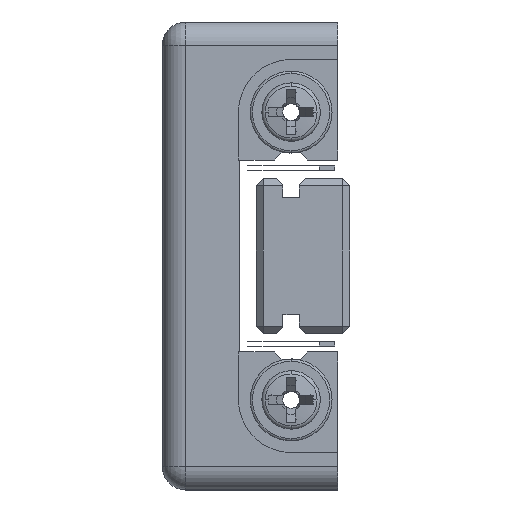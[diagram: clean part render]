
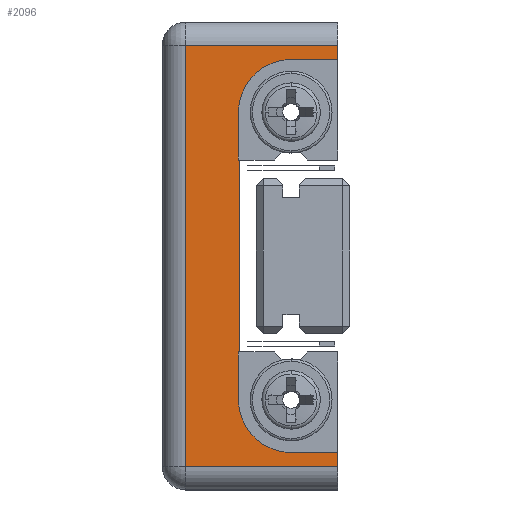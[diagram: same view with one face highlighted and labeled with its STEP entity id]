
A CAD part, left-side view. The second image highlights one B-rep face of the part: STEP entity #2096.
In plain terms, the highlighted planar face has unit normal (-1, 0, 0).
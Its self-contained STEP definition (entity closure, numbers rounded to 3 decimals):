
#117 = CARTESIAN_POINT ( 'NONE',  ( -32.201, -3.676, 4.1 ) ) ;
#157 = CARTESIAN_POINT ( 'NONE',  ( -32.201, -5.926, 6.15 ) ) ;
#205 = EDGE_CURVE ( 'NONE', #23670, #3009, #22721, .T. ) ;
#494 = ORIENTED_EDGE ( 'NONE', *, *, #9197, .T. ) ;
#735 = AXIS2_PLACEMENT_3D ( 'NONE', #157, #14585, #2259 ) ;
#1168 = VECTOR ( 'NONE', #12362, 1000. ) ;
#1175 = DIRECTION ( 'NONE',  ( 0., 0., -1. ) ) ;
#2096 = ADVANCED_FACE ( 'NONE', ( #15874 ), #13597, .F. ) ;
#2259 = DIRECTION ( 'NONE',  ( 0., 0., 1. ) ) ;
#2279 = EDGE_CURVE ( 'NONE', #14621, #11796, #11988, .T. ) ;
#2390 = CARTESIAN_POINT ( 'NONE',  ( -32.201, -0.426, 9. ) ) ;
#2749 = VECTOR ( 'NONE', #12959, 1000. ) ;
#2850 = VERTEX_POINT ( 'NONE', #18231 ) ;
#2879 = CARTESIAN_POINT ( 'NONE',  ( -32.201, -0.426, -9. ) ) ;
#3009 = VERTEX_POINT ( 'NONE', #9690 ) ;
#3037 = LINE ( 'NONE', #19407, #24294 ) ;
#3281 = CARTESIAN_POINT ( 'NONE',  ( -32.201, -5.926, -8.4 ) ) ;
#3602 = ORIENTED_EDGE ( 'NONE', *, *, #9287, .T. ) ;
#3725 = CARTESIAN_POINT ( 'NONE',  ( -32.201, -3.726, -4.1 ) ) ;
#3833 = CARTESIAN_POINT ( 'NONE',  ( -32.201, -7.926, -8.4 ) ) ;
#3890 = EDGE_CURVE ( 'NONE', #2850, #7847, #17156, .T. ) ;
#3973 = CARTESIAN_POINT ( 'NONE',  ( -32.201, -5.926, -6.15 ) ) ;
#4544 = LINE ( 'NONE', #3281, #25851 ) ;
#4678 = VECTOR ( 'NONE', #24990, 1000. ) ;
#5207 = CARTESIAN_POINT ( 'NONE',  ( -32.201, -3.676, 6.15 ) ) ;
#5235 = VERTEX_POINT ( 'NONE', #6899 ) ;
#5308 = DIRECTION ( 'NONE',  ( 0., 1., 0. ) ) ;
#5595 = CARTESIAN_POINT ( 'NONE',  ( -32.201, -3.676, 4.1 ) ) ;
#5719 = VECTOR ( 'NONE', #12829, 1000. ) ;
#5744 = EDGE_CURVE ( 'NONE', #3009, #15947, #22894, .T. ) ;
#6471 = VECTOR ( 'NONE', #15318, 1000. ) ;
#6587 = ORIENTED_EDGE ( 'NONE', *, *, #9912, .T. ) ;
#6598 = LINE ( 'NONE', #22652, #1168 ) ;
#6899 = CARTESIAN_POINT ( 'NONE',  ( -32.201, -1.426, -9. ) ) ;
#6992 = DIRECTION ( 'NONE',  ( 0., 0., 1. ) ) ;
#7401 = CARTESIAN_POINT ( 'NONE',  ( -32.201, -3.676, 6.15 ) ) ;
#7810 = VERTEX_POINT ( 'NONE', #3725 ) ;
#7847 = VERTEX_POINT ( 'NONE', #18506 ) ;
#8184 = LINE ( 'NONE', #21175, #2749 ) ;
#8337 = VERTEX_POINT ( 'NONE', #16753 ) ;
#8339 = VECTOR ( 'NONE', #22522, 1000. ) ;
#8441 = ORIENTED_EDGE ( 'NONE', *, *, #10811, .T. ) ;
#9197 = EDGE_CURVE ( 'NONE', #15947, #7810, #6598, .T. ) ;
#9287 = EDGE_CURVE ( 'NONE', #7847, #23964, #25990, .T. ) ;
#9690 = CARTESIAN_POINT ( 'NONE',  ( -32.201, -3.676, -6.15 ) ) ;
#9912 = EDGE_CURVE ( 'NONE', #8337, #22733, #8184, .T. ) ;
#10356 = DIRECTION ( 'NONE',  ( 0., 1., 0. ) ) ;
#10727 = CARTESIAN_POINT ( 'NONE',  ( -32.201, -5.926, 8.4 ) ) ;
#10811 = EDGE_CURVE ( 'NONE', #7810, #18090, #3037, .T. ) ;
#10840 = ORIENTED_EDGE ( 'NONE', *, *, #14017, .T. ) ;
#11186 = LINE ( 'NONE', #10727, #5719 ) ;
#11666 = VECTOR ( 'NONE', #16701, 1000. ) ;
#11796 = VERTEX_POINT ( 'NONE', #5207 ) ;
#11988 = LINE ( 'NONE', #7401, #6471 ) ;
#12238 = EDGE_LOOP ( 'NONE', ( #23831, #3602, #14035, #10840, #6587, #15402, #22301, #21536, #494, #8441, #21794, #22143, #16748, #12939 ) ) ;
#12362 = DIRECTION ( 'NONE',  ( 0., -1., 0. ) ) ;
#12829 = DIRECTION ( 'NONE',  ( 0., -1., 0. ) ) ;
#12939 = ORIENTED_EDGE ( 'NONE', *, *, #14450, .T. ) ;
#12959 = DIRECTION ( 'NONE',  ( 0., 0., 1. ) ) ;
#13024 = VECTOR ( 'NONE', #25344, 1000. ) ;
#13491 = EDGE_CURVE ( 'NONE', #11796, #18509, #25146, .T. ) ;
#13597 = PLANE ( 'NONE',  #25492 ) ;
#13667 = LINE ( 'NONE', #19137, #13024 ) ;
#14017 = EDGE_CURVE ( 'NONE', #5235, #8337, #14796, .T. ) ;
#14035 = ORIENTED_EDGE ( 'NONE', *, *, #17138, .T. ) ;
#14450 = EDGE_CURVE ( 'NONE', #18509, #2850, #11186, .T. ) ;
#14585 = DIRECTION ( 'NONE',  ( 1., 0., 0. ) ) ;
#14621 = VERTEX_POINT ( 'NONE', #5595 ) ;
#14725 = CARTESIAN_POINT ( 'NONE',  ( -32.201, -7.926, -10. ) ) ;
#14796 = LINE ( 'NONE', #2879, #20292 ) ;
#15187 = CARTESIAN_POINT ( 'NONE',  ( -32.201, -3.676, -4.1 ) ) ;
#15318 = DIRECTION ( 'NONE',  ( 0., 0., 1. ) ) ;
#15402 = ORIENTED_EDGE ( 'NONE', *, *, #19199, .T. ) ;
#15585 = DIRECTION ( 'NONE',  ( 1., 0., 0. ) ) ;
#15663 = CARTESIAN_POINT ( 'NONE',  ( -32.201, -0.426, -10. ) ) ;
#15874 = FACE_OUTER_BOUND ( 'NONE', #12238, .T. ) ;
#15947 = VERTEX_POINT ( 'NONE', #15187 ) ;
#16118 = AXIS2_PLACEMENT_3D ( 'NONE', #3973, #16398, #20751 ) ;
#16398 = DIRECTION ( 'NONE',  ( 1., 0., 0. ) ) ;
#16701 = DIRECTION ( 'NONE',  ( 0., 0., 1. ) ) ;
#16748 = ORIENTED_EDGE ( 'NONE', *, *, #13491, .T. ) ;
#16753 = CARTESIAN_POINT ( 'NONE',  ( -32.201, -7.926, -9. ) ) ;
#16905 = LINE ( 'NONE', #117, #23681 ) ;
#17010 = EDGE_CURVE ( 'NONE', #18090, #14621, #16905, .T. ) ;
#17138 = EDGE_CURVE ( 'NONE', #23964, #5235, #13667, .T. ) ;
#17156 = LINE ( 'NONE', #14725, #11666 ) ;
#18090 = VERTEX_POINT ( 'NONE', #25299 ) ;
#18231 = CARTESIAN_POINT ( 'NONE',  ( -32.201, -7.926, 8.4 ) ) ;
#18506 = CARTESIAN_POINT ( 'NONE',  ( -32.201, -7.926, 9. ) ) ;
#18509 = VERTEX_POINT ( 'NONE', #23185 ) ;
#19137 = CARTESIAN_POINT ( 'NONE',  ( -32.201, -1.426, -10. ) ) ;
#19199 = EDGE_CURVE ( 'NONE', #22733, #23670, #4544, .T. ) ;
#19374 = DIRECTION ( 'NONE',  ( 0., -1., 0. ) ) ;
#19407 = CARTESIAN_POINT ( 'NONE',  ( -32.201, -3.726, 4.1 ) ) ;
#20292 = VECTOR ( 'NONE', #19374, 1000. ) ;
#20751 = DIRECTION ( 'NONE',  ( 0., 0., -1. ) ) ;
#20876 = CARTESIAN_POINT ( 'NONE',  ( -32.201, -5.926, -8.4 ) ) ;
#21175 = CARTESIAN_POINT ( 'NONE',  ( -32.201, -7.926, -10. ) ) ;
#21536 = ORIENTED_EDGE ( 'NONE', *, *, #5744, .T. ) ;
#21794 = ORIENTED_EDGE ( 'NONE', *, *, #17010, .T. ) ;
#22028 = CARTESIAN_POINT ( 'NONE',  ( -32.201, -1.426, 9. ) ) ;
#22143 = ORIENTED_EDGE ( 'NONE', *, *, #2279, .T. ) ;
#22301 = ORIENTED_EDGE ( 'NONE', *, *, #205, .T. ) ;
#22522 = DIRECTION ( 'NONE',  ( 0., 0., 1. ) ) ;
#22652 = CARTESIAN_POINT ( 'NONE',  ( -32.201, -3.676, -4.1 ) ) ;
#22721 = CIRCLE ( 'NONE', #16118, 2.25 ) ;
#22733 = VERTEX_POINT ( 'NONE', #3833 ) ;
#22894 = LINE ( 'NONE', #26568, #8339 ) ;
#23185 = CARTESIAN_POINT ( 'NONE',  ( -32.201, -5.926, 8.4 ) ) ;
#23670 = VERTEX_POINT ( 'NONE', #20876 ) ;
#23681 = VECTOR ( 'NONE', #10356, 1000. ) ;
#23831 = ORIENTED_EDGE ( 'NONE', *, *, #3890, .T. ) ;
#23964 = VERTEX_POINT ( 'NONE', #22028 ) ;
#24294 = VECTOR ( 'NONE', #6992, 1000. ) ;
#24990 = DIRECTION ( 'NONE',  ( 0., 1., 0. ) ) ;
#25146 = CIRCLE ( 'NONE', #735, 2.25 ) ;
#25299 = CARTESIAN_POINT ( 'NONE',  ( -32.201, -3.726, 4.1 ) ) ;
#25344 = DIRECTION ( 'NONE',  ( 0., 0., -1. ) ) ;
#25492 = AXIS2_PLACEMENT_3D ( 'NONE', #15663, #15585, #1175 ) ;
#25851 = VECTOR ( 'NONE', #5308, 1000. ) ;
#25990 = LINE ( 'NONE', #2390, #4678 ) ;
#26568 = CARTESIAN_POINT ( 'NONE',  ( -32.201, -3.676, -6.15 ) ) ;
